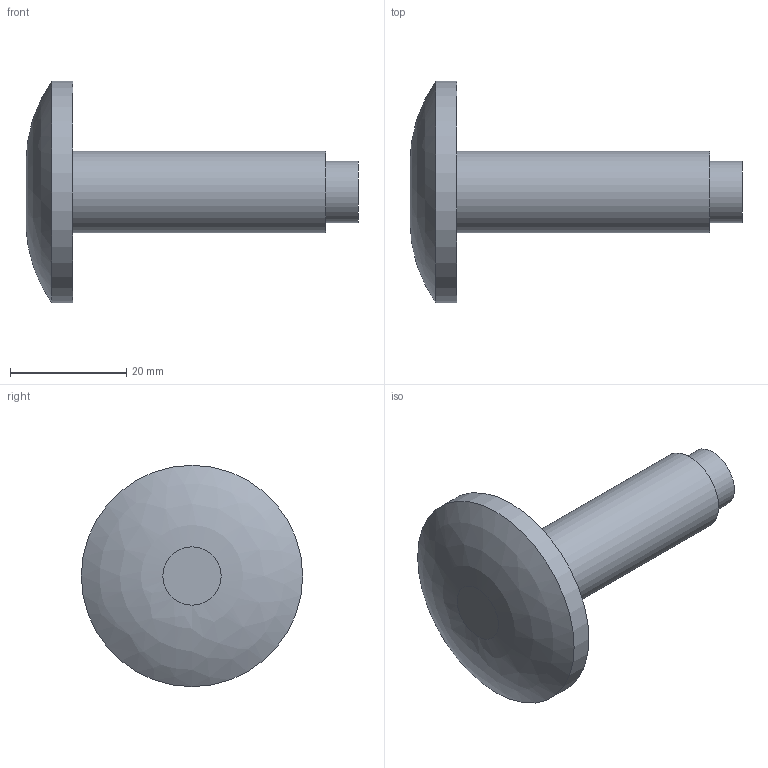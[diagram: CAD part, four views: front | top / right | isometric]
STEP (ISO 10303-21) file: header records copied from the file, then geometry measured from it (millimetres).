
FILE_DESCRIPTION((''),'2;1');
FILE_NAME('M:\INVENTORjob\Konstruktion\Sicherheitsschalter\ipt iam Modelle\April 2012\AC-PB40-L200\AC-PB40-L200.stp','2012-04-13T12:52:20',('sloesch'),(''),'Autodesk Inventor 2009','Autodesk Inventor 2009','');
FILE_SCHEMA(('AUTOMOTIVE_DESIGN { 1 0 10303 214 1 1 1 1 }'));
Length unit declared in the file: millimetre
Products named in the file (1): AC-PB40-L200_
Bounding box: 57 x 38 x 38 mm (x, y, z)
Volume: 14321.7 mm3; surface area: 4883.3 mm2
Topology: 1 solids, 1 shells, 8 faces, 11 edges, 7 vertices
Faces by surface type: plane 4, cylinder 3, bspline 1
Full cylindrical faces by diameter (mm): 10.6 x1, 14 x1, 38 x1
Entity records: 202 total; most frequent: CARTESIAN_POINT 49, DIRECTION 30, AXIS2_PLACEMENT_3D 15, ORIENTED_EDGE 14, EDGE_LOOP 14, FACE_OUTER_BOUND 8, ADVANCED_FACE 8, VERTEX_POINT 7
